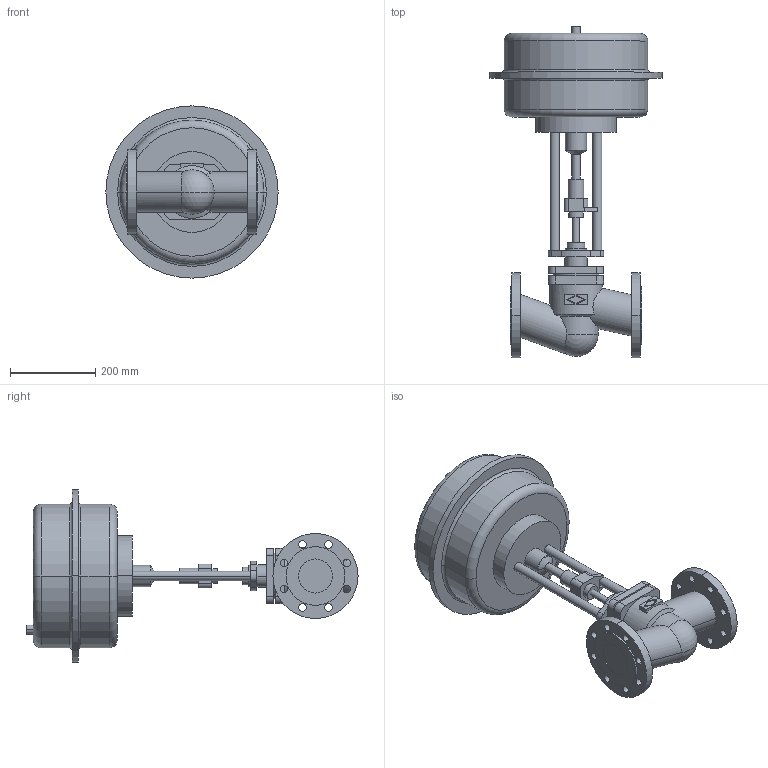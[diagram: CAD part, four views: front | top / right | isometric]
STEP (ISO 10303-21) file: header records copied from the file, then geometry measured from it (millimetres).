
FILE_DESCRIPTION(('OneSpaceDesigner STEP Export'),'2;1');
FILE_NAME('c000001493.stp','2005-02-15T 9:34:52',(''),(''),'OneSpace Designer STEP processor (Jan. 2003) for AP203(Solid Model)','OneSpace Designer 12.01D 09-Jul-2004 (C) CoCreate Software GmbH','');
FILE_SCHEMA(('CONFIG_CONTROL_DESIGN'));
Length unit declared in the file: millimetre
Products named in the file (2): 1; 2
Bounding box: 405 x 780.5 x 405 mm (x, y, z)
Volume: 24484418.8 mm3; surface area: 867710.7 mm2
Topology: 2 solids, 2 shells, 184 faces, 449 edges, 294 vertices
Faces by surface type: cylinder 100, plane 68, torus 10, cone 4, sphere 2
Entity records: 5284 total; most frequent: CARTESIAN_POINT 1081, ORIENTED_EDGE 894, DIRECTION 749, EDGE_CURVE 447, VERTEX_POINT 294, AXIS2_PLACEMENT_3D 271, EDGE_LOOP 243, VECTOR 207
